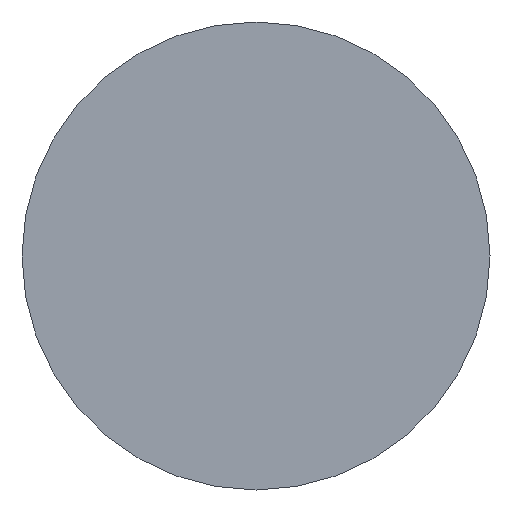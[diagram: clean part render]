
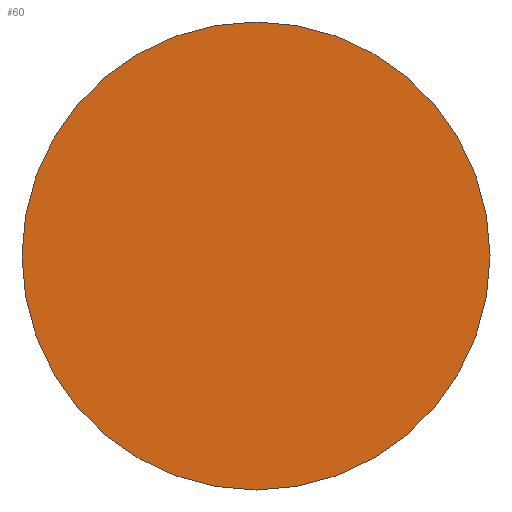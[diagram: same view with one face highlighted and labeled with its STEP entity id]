
A CAD part, front view. The second image highlights one B-rep face of the part: STEP entity #60.
In plain terms, the highlighted planar face has unit normal (0, -1, 0).
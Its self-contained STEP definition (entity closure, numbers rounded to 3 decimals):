
#24=FACE_OUTER_BOUND('',#32,.T.);
#32=EDGE_LOOP('',(#52));
#35=CIRCLE('',#67,25.);
#39=VERTEX_POINT('',#99);
#43=EDGE_CURVE('',#39,#39,#35,.T.);
#52=ORIENTED_EDGE('',*,*,#43,.F.);
#55=PLANE('',#71);
#60=ADVANCED_FACE('',(#24),#55,.F.);
#67=AXIS2_PLACEMENT_3D('',#100,#82,#83);
#71=AXIS2_PLACEMENT_3D('',#105,#90,#91);
#82=DIRECTION('center_axis',(0.,1.,0.));
#83=DIRECTION('ref_axis',(1.,0.,0.));
#90=DIRECTION('center_axis',(0.,1.,0.));
#91=DIRECTION('ref_axis',(1.,0.,0.));
#99=CARTESIAN_POINT('',(-25.,0.,0.));
#100=CARTESIAN_POINT('Origin',(0.,0.,0.));
#105=CARTESIAN_POINT('Origin',(0.,0.,0.));
